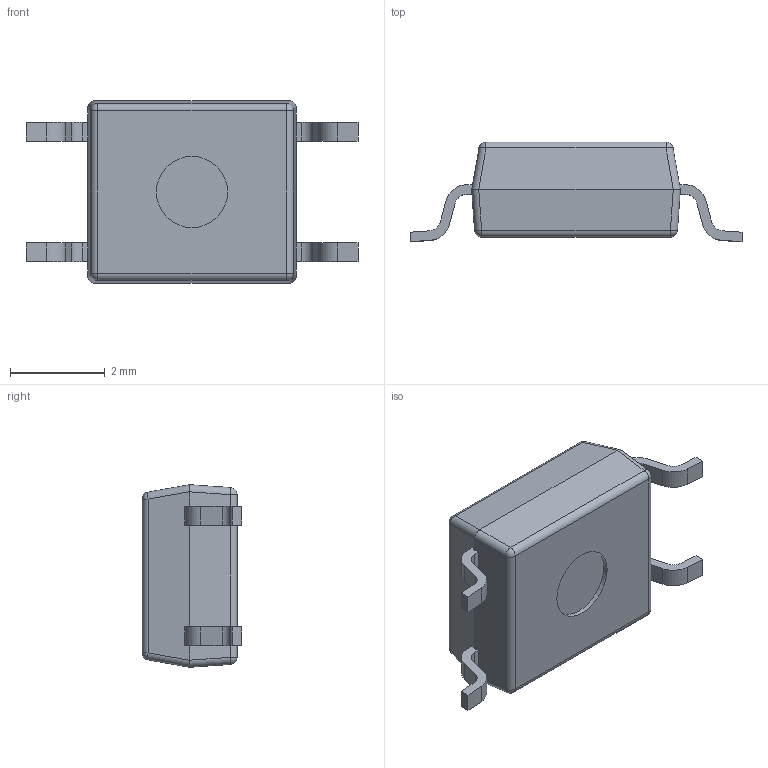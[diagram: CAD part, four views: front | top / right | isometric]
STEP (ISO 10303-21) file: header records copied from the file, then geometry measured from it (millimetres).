
FILE_DESCRIPTION(/* description */ ('STEP AP203'),/* implementation_level */ '2;1');
FILE_NAME(/* name */ 'H:\COPYBOX\Miro\Achim Kruck\SOP4\SOP4.stp',/* time_stamp */ '2018-10-11T15:08:57+02:00',/* author */ ('mmangarudov'),/* organization */ (''),/* preprocessor_version */ 'ST-DEVELOPER v16.1',/* originating_system */ 'Autodesk Inventor 2016',/* authorisation */ '');
FILE_SCHEMA (('AUTOMOTIVE_DESIGN { 1 0 10303 214 3 1 1 }'));
Length unit declared in the file: millimetre
Products named in the file (1): SOP4
Bounding box: 7 x 2.1 x 3.85 mm (x, y, z)
Volume: 32.2 mm3; surface area: 69.9 mm2
Topology: 1 solids, 1 shells, 90 faces, 242 edges, 148 vertices
Faces by surface type: plane 48, cylinder 34, sphere 8
Full cylindrical faces by diameter (mm): 0.7 x1, 1.5 x1
Entity records: 2793 total; most frequent: CARTESIAN_POINT 483, DIRECTION 478, ORIENTED_EDGE 464, EDGE_CURVE 232, LINE 160, VECTOR 160, AXIS2_PLACEMENT_3D 159, VERTEX_POINT 148
